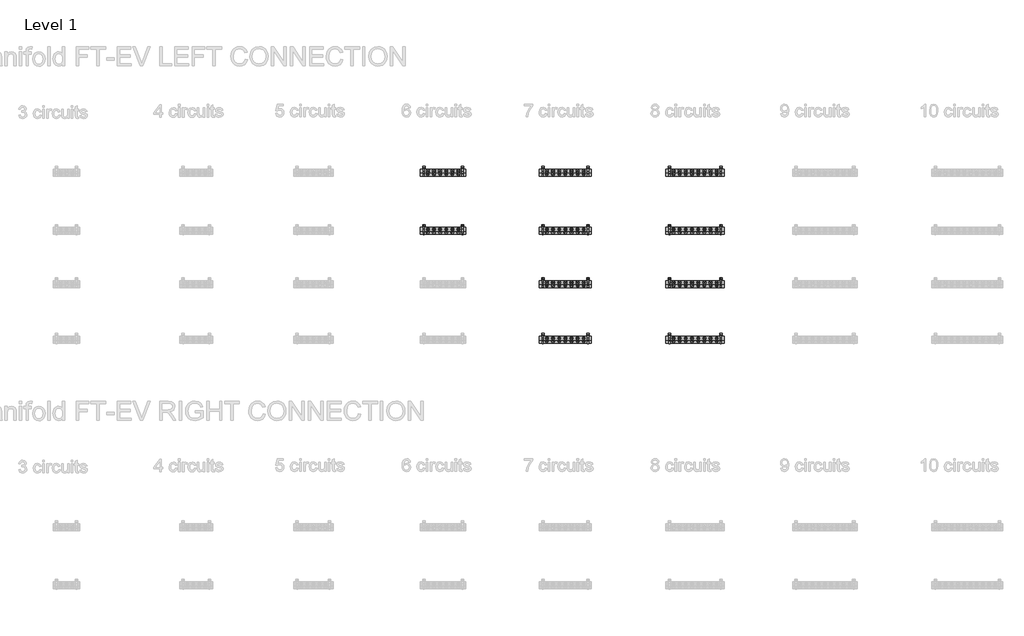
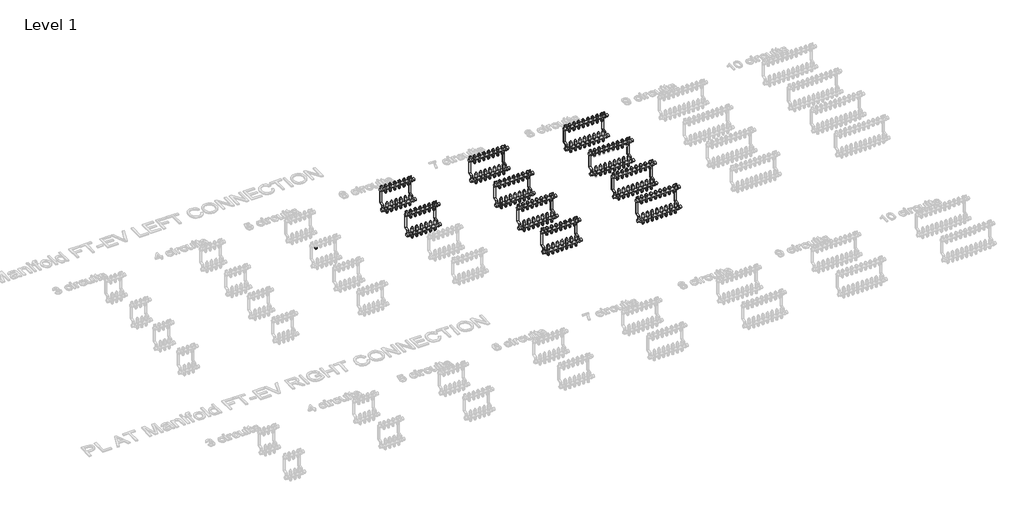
# One storey, part 9 of 23: 138 pipe fittings, 10 valves.
"""IFC4 building model written with IfcOpenShell, lengths in millimetres."""

from ifc_helpers import new_model, si_unit, origin, place, context, project, spatial, transform, mapped, element, save
from components import pipe_fitting_03c6499f, valve_0c7f9d95, valve_02e7046f, valve_ee085975, valve_4b47ae93, valve_fde5d0af, valve_4e4a3ad7, valve_daf88f27

model = new_model("IFC4")

# Units and contexts
model_context = context("Model", 3, world=origin())
ifc_project = project(units=[si_unit("LENGTHUNIT", "METRE", prefix="MILLI")], contexts=[model_context])

# Site, building, storey
site = spatial("IfcSite", under=ifc_project)
building = spatial("IfcBuilding", under=site)
storey = spatial("IfcBuildingStorey", under=building, Name="Level 1", Elevation=0.0)

# Pipe fittings
placement = place(None, origin())
pipe_fitting_shape = pipe_fitting_03c6499f(model_context)
element("IfcPipeFitting", 1, ObjectType="Euroconus screwing for multilayer pipes - Manifold FT : Euroconus screwing for multilayer pipes - Manifold FT", at=placement, inside=storey, context=model_context, shape_type="MappedRepresentation", body=[
    mapped(pipe_fitting_shape, transform((4292.9796862, 1200.3040686, 272.88733), x_axis=(0.0, 0.0, -1.0), y_axis=(0.0, 1.0000000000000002, 0.0), z_axis=(1.0000000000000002, 0.0, 0.0))),
])
element("IfcPipeFitting", 2, ObjectType="Euroconus screwing for multilayer pipes - Manifold FT : Euroconus screwing for multilayer pipes - Manifold FT", at=placement, inside=storey, context=model_context, shape_type="MappedRepresentation", body=[
    mapped(pipe_fitting_shape, transform((5486.5796862, 1635.3040686, 62.88733), x_axis=(0.0, 0.0, -1.0), y_axis=(0.0, 1.0000000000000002, 0.0), z_axis=(1.0000000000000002, 0.0, 0.0))),
])
element("IfcPipeFitting", 3, ObjectType="Euroconus screwing for multilayer pipes - Manifold FT : Euroconus screwing for multilayer pipes - Manifold FT", at=placement, inside=storey, context=model_context, shape_type="MappedRepresentation", body=[
    mapped(pipe_fitting_shape, transform((5438.1796862, 1635.3040686, 62.88733), x_axis=(0.0, 0.0, -1.0), y_axis=(0.0, 1.0000000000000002, 0.0), z_axis=(1.0000000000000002, 0.0, 0.0))),
])
element("IfcPipeFitting", 4, ObjectType="Euroconus screwing for multilayer pipes - Manifold FT : Euroconus screwing for multilayer pipes - Manifold FT", at=placement, inside=storey, context=model_context, shape_type="MappedRepresentation", body=[
    mapped(pipe_fitting_shape, transform((5389.7796862, 1635.3040686, 62.88733), x_axis=(0.0, 0.0, -1.0), y_axis=(0.0, 1.0000000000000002, 0.0), z_axis=(1.0000000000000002, 0.0, 0.0))),
])
element("IfcPipeFitting", 5, ObjectType="Euroconus screwing for multilayer pipes - Manifold FT : Euroconus screwing for multilayer pipes - Manifold FT", at=placement, inside=storey, context=model_context, shape_type="MappedRepresentation", body=[
    mapped(pipe_fitting_shape, transform((5341.3796862, 1635.3040686, 62.88733), x_axis=(0.0, 0.0, -1.0), y_axis=(0.0, 1.0000000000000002, 0.0), z_axis=(1.0000000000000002, 0.0, 0.0))),
])
element("IfcPipeFitting", 6, ObjectType="Euroconus screwing for multilayer pipes - Manifold FT : Euroconus screwing for multilayer pipes - Manifold FT", at=placement, inside=storey, context=model_context, shape_type="MappedRepresentation", body=[
    mapped(pipe_fitting_shape, transform((5534.9796862, 1635.3040686, 62.88733), x_axis=(0.0, 0.0, -1.0), y_axis=(0.0, 1.0000000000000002, 0.0), z_axis=(1.0000000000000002, 0.0, 0.0))),
])
element("IfcPipeFitting", 7, ObjectType="Euroconus screwing for multilayer pipes - Manifold FT : Euroconus screwing for multilayer pipes - Manifold FT", at=placement, inside=storey, context=model_context, shape_type="MappedRepresentation", body=[
    mapped(pipe_fitting_shape, transform((5486.5796862, 1660.3040686, 272.88733), x_axis=(0.0, 0.0, -1.0), y_axis=(0.0, 1.0000000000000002, 0.0), z_axis=(1.0000000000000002, 0.0, 0.0))),
])
element("IfcPipeFitting", 8, ObjectType="Euroconus screwing for multilayer pipes - Manifold FT : Euroconus screwing for multilayer pipes - Manifold FT", at=placement, inside=storey, context=model_context, shape_type="MappedRepresentation", body=[
    mapped(pipe_fitting_shape, transform((5438.1796862, 1660.3040686, 272.88733), x_axis=(0.0, 0.0, -1.0), y_axis=(0.0, 1.0000000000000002, 0.0), z_axis=(1.0000000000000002, 0.0, 0.0))),
])
element("IfcPipeFitting", 9, ObjectType="Euroconus screwing for multilayer pipes - Manifold FT : Euroconus screwing for multilayer pipes - Manifold FT", at=placement, inside=storey, context=model_context, shape_type="MappedRepresentation", body=[
    mapped(pipe_fitting_shape, transform((5389.7796862, 1660.3040686, 272.88733), x_axis=(0.0, 0.0, -1.0), y_axis=(0.0, 1.0000000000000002, 0.0), z_axis=(1.0000000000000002, 0.0, 0.0))),
])
element("IfcPipeFitting", 10, ObjectType="Euroconus screwing for multilayer pipes - Manifold FT : Euroconus screwing for multilayer pipes - Manifold FT", at=placement, inside=storey, context=model_context, shape_type="MappedRepresentation", body=[
    mapped(pipe_fitting_shape, transform((5341.3796862, 1660.3040686, 272.88733), x_axis=(0.0, 0.0, -1.0), y_axis=(0.0, 1.0000000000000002, 0.0), z_axis=(1.0000000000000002, 0.0, 0.0))),
])
element("IfcPipeFitting", 11, ObjectType="Euroconus screwing for multilayer pipes - Manifold FT : Euroconus screwing for multilayer pipes - Manifold FT", at=placement, inside=storey, context=model_context, shape_type="MappedRepresentation", body=[
    mapped(pipe_fitting_shape, transform((5534.9796862, 1660.3040686, 272.88733), x_axis=(0.0, 0.0, -1.0), y_axis=(0.0, 1.0000000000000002, 0.0), z_axis=(1.0000000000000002, 0.0, 0.0))),
])
element("IfcPipeFitting", 12, ObjectType="Euroconus screwing for multilayer pipes - Manifold FT : Euroconus screwing for multilayer pipes - Manifold FT", at=placement, inside=storey, context=model_context, shape_type="MappedRepresentation", body=[
    mapped(pipe_fitting_shape, transform((5292.9796862, 1635.3040686, 62.88733), x_axis=(0.0, 0.0, -1.0), y_axis=(0.0, 1.0000000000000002, 0.0), z_axis=(1.0000000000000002, 0.0, 0.0))),
])
element("IfcPipeFitting", 13, ObjectType="Euroconus screwing for multilayer pipes - Manifold FT : Euroconus screwing for multilayer pipes - Manifold FT", at=placement, inside=storey, context=model_context, shape_type="MappedRepresentation", body=[
    mapped(pipe_fitting_shape, transform((5292.9796862, 1660.3040686, 272.88733), x_axis=(0.0, 0.0, -1.0), y_axis=(0.0, 1.0000000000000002, 0.0), z_axis=(1.0000000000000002, 0.0, 0.0))),
])
element("IfcPipeFitting", 14, ObjectType="Euroconus screwing for multilayer pipes - Manifold FT : Euroconus screwing for multilayer pipes - Manifold FT", at=placement, inside=storey, context=model_context, shape_type="MappedRepresentation", body=[
    mapped(pipe_fitting_shape, transform((5486.5796862, 1175.3040686, 62.88733), x_axis=(0.0, 0.0, -1.0), y_axis=(0.0, 1.0000000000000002, 0.0), z_axis=(1.0000000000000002, 0.0, 0.0))),
])
element("IfcPipeFitting", 15, ObjectType="Euroconus screwing for multilayer pipes - Manifold FT : Euroconus screwing for multilayer pipes - Manifold FT", at=placement, inside=storey, context=model_context, shape_type="MappedRepresentation", body=[
    mapped(pipe_fitting_shape, transform((5438.1796862, 1175.3040686, 62.88733), x_axis=(0.0, 0.0, -1.0), y_axis=(0.0, 1.0000000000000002, 0.0), z_axis=(1.0000000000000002, 0.0, 0.0))),
])
element("IfcPipeFitting", 16, ObjectType="Euroconus screwing for multilayer pipes - Manifold FT : Euroconus screwing for multilayer pipes - Manifold FT", at=placement, inside=storey, context=model_context, shape_type="MappedRepresentation", body=[
    mapped(pipe_fitting_shape, transform((5389.7796862, 1175.3040686, 62.88733), x_axis=(0.0, 0.0, -1.0), y_axis=(0.0, 1.0000000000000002, 0.0), z_axis=(1.0000000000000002, 0.0, 0.0))),
])
element("IfcPipeFitting", 17, ObjectType="Euroconus screwing for multilayer pipes - Manifold FT : Euroconus screwing for multilayer pipes - Manifold FT", at=placement, inside=storey, context=model_context, shape_type="MappedRepresentation", body=[
    mapped(pipe_fitting_shape, transform((5341.3796862, 1175.3040686, 62.88733), x_axis=(0.0, 0.0, -1.0), y_axis=(0.0, 1.0000000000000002, 0.0), z_axis=(1.0000000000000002, 0.0, 0.0))),
])
element("IfcPipeFitting", 18, ObjectType="Euroconus screwing for multilayer pipes - Manifold FT : Euroconus screwing for multilayer pipes - Manifold FT", at=placement, inside=storey, context=model_context, shape_type="MappedRepresentation", body=[
    mapped(pipe_fitting_shape, transform((5534.9796862, 1175.3040686, 62.88733), x_axis=(0.0, 0.0, -1.0), y_axis=(0.0, 1.0000000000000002, 0.0), z_axis=(1.0000000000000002, 0.0, 0.0))),
])
element("IfcPipeFitting", 19, ObjectType="Euroconus screwing for multilayer pipes - Manifold FT : Euroconus screwing for multilayer pipes - Manifold FT", at=placement, inside=storey, context=model_context, shape_type="MappedRepresentation", body=[
    mapped(pipe_fitting_shape, transform((5486.5796862, 1200.3040686, 272.88733), x_axis=(0.0, 0.0, -1.0), y_axis=(0.0, 1.0000000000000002, 0.0), z_axis=(1.0000000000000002, 0.0, 0.0))),
])
element("IfcPipeFitting", 20, ObjectType="Euroconus screwing for multilayer pipes - Manifold FT : Euroconus screwing for multilayer pipes - Manifold FT", at=placement, inside=storey, context=model_context, shape_type="MappedRepresentation", body=[
    mapped(pipe_fitting_shape, transform((5438.1796862, 1200.3040686, 272.88733), x_axis=(0.0, 0.0, -1.0), y_axis=(0.0, 1.0000000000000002, 0.0), z_axis=(1.0000000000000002, 0.0, 0.0))),
])
element("IfcPipeFitting", 21, ObjectType="Euroconus screwing for multilayer pipes - Manifold FT : Euroconus screwing for multilayer pipes - Manifold FT", at=placement, inside=storey, context=model_context, shape_type="MappedRepresentation", body=[
    mapped(pipe_fitting_shape, transform((5389.7796862, 1200.3040686, 272.88733), x_axis=(0.0, 0.0, -1.0), y_axis=(0.0, 1.0000000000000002, 0.0), z_axis=(1.0000000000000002, 0.0, 0.0))),
])
element("IfcPipeFitting", 22, ObjectType="Euroconus screwing for multilayer pipes - Manifold FT : Euroconus screwing for multilayer pipes - Manifold FT", at=placement, inside=storey, context=model_context, shape_type="MappedRepresentation", body=[
    mapped(pipe_fitting_shape, transform((5341.3796862, 1200.3040686, 272.88733), x_axis=(0.0, 0.0, -1.0), y_axis=(0.0, 1.0000000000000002, 0.0), z_axis=(1.0000000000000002, 0.0, 0.0))),
])
element("IfcPipeFitting", 23, ObjectType="Euroconus screwing for multilayer pipes - Manifold FT : Euroconus screwing for multilayer pipes - Manifold FT", at=placement, inside=storey, context=model_context, shape_type="MappedRepresentation", body=[
    mapped(pipe_fitting_shape, transform((5534.9796862, 1200.3040686, 272.88733), x_axis=(0.0, 0.0, -1.0), y_axis=(0.0, 1.0000000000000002, 0.0), z_axis=(1.0000000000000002, 0.0, 0.0))),
])
element("IfcPipeFitting", 24, ObjectType="Euroconus screwing for multilayer pipes - Manifold FT : Euroconus screwing for multilayer pipes - Manifold FT", at=placement, inside=storey, context=model_context, shape_type="MappedRepresentation", body=[
    mapped(pipe_fitting_shape, transform((5292.9796862, 1175.3040686, 62.88733), x_axis=(0.0, 0.0, -1.0), y_axis=(0.0, 1.0000000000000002, 0.0), z_axis=(1.0000000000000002, 0.0, 0.0))),
])
element("IfcPipeFitting", 25, ObjectType="Euroconus screwing for multilayer pipes - Manifold FT : Euroconus screwing for multilayer pipes - Manifold FT", at=placement, inside=storey, context=model_context, shape_type="MappedRepresentation", body=[
    mapped(pipe_fitting_shape, transform((5292.9796862, 1200.3040686, 272.88733), x_axis=(0.0, 0.0, -1.0), y_axis=(0.0, 1.0000000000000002, 0.0), z_axis=(1.0000000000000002, 0.0, 0.0))),
])
element("IfcPipeFitting", 26, ObjectType="Euroconus screwing for multilayer pipes - Manifold FT : Euroconus screwing for multilayer pipes - Manifold FT", at=placement, inside=storey, context=model_context, shape_type="MappedRepresentation", body=[
    mapped(pipe_fitting_shape, transform((6476.3130195, 1635.3040686, 62.88733), x_axis=(0.0, 0.0, -1.0), y_axis=(0.0, 1.0000000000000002, 0.0), z_axis=(1.0000000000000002, 0.0, 0.0))),
])
element("IfcPipeFitting", 27, ObjectType="Euroconus screwing for multilayer pipes - Manifold FT : Euroconus screwing for multilayer pipes - Manifold FT", at=placement, inside=storey, context=model_context, shape_type="MappedRepresentation", body=[
    mapped(pipe_fitting_shape, transform((6427.6463528, 1635.3040686, 62.88733), x_axis=(0.0, 0.0, -1.0), y_axis=(0.0, 1.0000000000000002, 0.0), z_axis=(1.0000000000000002, 0.0, 0.0))),
])
element("IfcPipeFitting", 28, ObjectType="Euroconus screwing for multilayer pipes - Manifold FT : Euroconus screwing for multilayer pipes - Manifold FT", at=placement, inside=storey, context=model_context, shape_type="MappedRepresentation", body=[
    mapped(pipe_fitting_shape, transform((6378.9796862, 1635.3040686, 62.88733), x_axis=(0.0, 0.0, -1.0), y_axis=(0.0, 1.0000000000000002, 0.0), z_axis=(1.0000000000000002, 0.0, 0.0))),
])
element("IfcPipeFitting", 29, ObjectType="Euroconus screwing for multilayer pipes - Manifold FT : Euroconus screwing for multilayer pipes - Manifold FT", at=placement, inside=storey, context=model_context, shape_type="MappedRepresentation", body=[
    mapped(pipe_fitting_shape, transform((6330.3130195, 1635.3040686, 62.88733), x_axis=(0.0, 0.0, -1.0), y_axis=(0.0, 1.0000000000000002, 0.0), z_axis=(1.0000000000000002, 0.0, 0.0))),
])
element("IfcPipeFitting", 30, ObjectType="Euroconus screwing for multilayer pipes - Manifold FT : Euroconus screwing for multilayer pipes - Manifold FT", at=placement, inside=storey, context=model_context, shape_type="MappedRepresentation", body=[
    mapped(pipe_fitting_shape, transform((6281.6463528, 1635.3040686, 62.88733), x_axis=(0.0, 0.0, -1.0), y_axis=(0.0, 1.0000000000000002, 0.0), z_axis=(1.0000000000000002, 0.0, 0.0))),
])
element("IfcPipeFitting", 31, ObjectType="Euroconus screwing for multilayer pipes - Manifold FT : Euroconus screwing for multilayer pipes - Manifold FT", at=placement, inside=storey, context=model_context, shape_type="MappedRepresentation", body=[
    mapped(pipe_fitting_shape, transform((6524.9796862, 1635.3040686, 62.88733), x_axis=(0.0, 0.0, -1.0), y_axis=(0.0, 1.0000000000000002, 0.0), z_axis=(1.0000000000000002, 0.0, 0.0))),
])
element("IfcPipeFitting", 32, ObjectType="Euroconus screwing for multilayer pipes - Manifold FT : Euroconus screwing for multilayer pipes - Manifold FT", at=placement, inside=storey, context=model_context, shape_type="MappedRepresentation", body=[
    mapped(pipe_fitting_shape, transform((6476.3130195, 1660.3040686, 272.88733), x_axis=(0.0, 0.0, -1.0), y_axis=(0.0, 1.0000000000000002, 0.0), z_axis=(1.0000000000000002, 0.0, 0.0))),
])
element("IfcPipeFitting", 33, ObjectType="Euroconus screwing for multilayer pipes - Manifold FT : Euroconus screwing for multilayer pipes - Manifold FT", at=placement, inside=storey, context=model_context, shape_type="MappedRepresentation", body=[
    mapped(pipe_fitting_shape, transform((6427.6463528, 1660.3040686, 272.88733), x_axis=(0.0, 0.0, -1.0), y_axis=(0.0, 1.0000000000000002, 0.0), z_axis=(1.0000000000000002, 0.0, 0.0))),
])
element("IfcPipeFitting", 34, ObjectType="Euroconus screwing for multilayer pipes - Manifold FT : Euroconus screwing for multilayer pipes - Manifold FT", at=placement, inside=storey, context=model_context, shape_type="MappedRepresentation", body=[
    mapped(pipe_fitting_shape, transform((6378.9796862, 1660.3040686, 272.88733), x_axis=(0.0, 0.0, -1.0), y_axis=(0.0, 1.0000000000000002, 0.0), z_axis=(1.0000000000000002, 0.0, 0.0))),
])
element("IfcPipeFitting", 35, ObjectType="Euroconus screwing for multilayer pipes - Manifold FT : Euroconus screwing for multilayer pipes - Manifold FT", at=placement, inside=storey, context=model_context, shape_type="MappedRepresentation", body=[
    mapped(pipe_fitting_shape, transform((6330.3130195, 1660.3040686, 272.88733), x_axis=(0.0, 0.0, -1.0), y_axis=(0.0, 1.0000000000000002, 0.0), z_axis=(1.0000000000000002, 0.0, 0.0))),
])
element("IfcPipeFitting", 36, ObjectType="Euroconus screwing for multilayer pipes - Manifold FT : Euroconus screwing for multilayer pipes - Manifold FT", at=placement, inside=storey, context=model_context, shape_type="MappedRepresentation", body=[
    mapped(pipe_fitting_shape, transform((6281.6463528, 1660.3040686, 272.88733), x_axis=(0.0, 0.0, -1.0), y_axis=(0.0, 1.0000000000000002, 0.0), z_axis=(1.0000000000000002, 0.0, 0.0))),
])
element("IfcPipeFitting", 37, ObjectType="Euroconus screwing for multilayer pipes - Manifold FT : Euroconus screwing for multilayer pipes - Manifold FT", at=placement, inside=storey, context=model_context, shape_type="MappedRepresentation", body=[
    mapped(pipe_fitting_shape, transform((6524.9796862, 1660.3040686, 272.88733), x_axis=(0.0, 0.0, -1.0), y_axis=(0.0, 1.0000000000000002, 0.0), z_axis=(1.0000000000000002, 0.0, 0.0))),
])
element("IfcPipeFitting", 38, ObjectType="Euroconus screwing for multilayer pipes - Manifold FT : Euroconus screwing for multilayer pipes - Manifold FT", at=placement, inside=storey, context=model_context, shape_type="MappedRepresentation", body=[
    mapped(pipe_fitting_shape, transform((6232.9796862, 1635.3040686, 62.88733), x_axis=(0.0, 0.0, -1.0), y_axis=(0.0, 1.0000000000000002, 0.0), z_axis=(1.0000000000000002, 0.0, 0.0))),
])
element("IfcPipeFitting", 39, ObjectType="Euroconus screwing for multilayer pipes - Manifold FT : Euroconus screwing for multilayer pipes - Manifold FT", at=placement, inside=storey, context=model_context, shape_type="MappedRepresentation", body=[
    mapped(pipe_fitting_shape, transform((6232.9796862, 1660.3040686, 272.88733), x_axis=(0.0, 0.0, -1.0), y_axis=(0.0, 1.0000000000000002, 0.0), z_axis=(1.0000000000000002, 0.0, 0.0))),
])
element("IfcPipeFitting", 40, ObjectType="Euroconus screwing for multilayer pipes - Manifold FT : Euroconus screwing for multilayer pipes - Manifold FT", at=placement, inside=storey, context=model_context, shape_type="MappedRepresentation", body=[
    mapped(pipe_fitting_shape, transform((6476.3130195, 1175.3040686, 62.88733), x_axis=(0.0, 0.0, -1.0), y_axis=(0.0, 1.0000000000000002, 0.0), z_axis=(1.0000000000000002, 0.0, 0.0))),
])
element("IfcPipeFitting", 41, ObjectType="Euroconus screwing for multilayer pipes - Manifold FT : Euroconus screwing for multilayer pipes - Manifold FT", at=placement, inside=storey, context=model_context, shape_type="MappedRepresentation", body=[
    mapped(pipe_fitting_shape, transform((6427.6463528, 1175.3040686, 62.88733), x_axis=(0.0, 0.0, -1.0), y_axis=(0.0, 1.0000000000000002, 0.0), z_axis=(1.0000000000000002, 0.0, 0.0))),
])
element("IfcPipeFitting", 42, ObjectType="Euroconus screwing for multilayer pipes - Manifold FT : Euroconus screwing for multilayer pipes - Manifold FT", at=placement, inside=storey, context=model_context, shape_type="MappedRepresentation", body=[
    mapped(pipe_fitting_shape, transform((6378.9796862, 1175.3040686, 62.88733), x_axis=(0.0, 0.0, -1.0), y_axis=(0.0, 1.0000000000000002, 0.0), z_axis=(1.0000000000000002, 0.0, 0.0))),
])
element("IfcPipeFitting", 43, ObjectType="Euroconus screwing for multilayer pipes - Manifold FT : Euroconus screwing for multilayer pipes - Manifold FT", at=placement, inside=storey, context=model_context, shape_type="MappedRepresentation", body=[
    mapped(pipe_fitting_shape, transform((6330.3130195, 1175.3040686, 62.88733), x_axis=(0.0, 0.0, -1.0), y_axis=(0.0, 1.0000000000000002, 0.0), z_axis=(1.0000000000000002, 0.0, 0.0))),
])
element("IfcPipeFitting", 44, ObjectType="Euroconus screwing for multilayer pipes - Manifold FT : Euroconus screwing for multilayer pipes - Manifold FT", at=placement, inside=storey, context=model_context, shape_type="MappedRepresentation", body=[
    mapped(pipe_fitting_shape, transform((6281.6463528, 1175.3040686, 62.88733), x_axis=(0.0, 0.0, -1.0), y_axis=(0.0, 1.0000000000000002, 0.0), z_axis=(1.0000000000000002, 0.0, 0.0))),
])
element("IfcPipeFitting", 45, ObjectType="Euroconus screwing for multilayer pipes - Manifold FT : Euroconus screwing for multilayer pipes - Manifold FT", at=placement, inside=storey, context=model_context, shape_type="MappedRepresentation", body=[
    mapped(pipe_fitting_shape, transform((6524.9796862, 1175.3040686, 62.88733), x_axis=(0.0, 0.0, -1.0), y_axis=(0.0, 1.0000000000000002, 0.0), z_axis=(1.0000000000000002, 0.0, 0.0))),
])
element("IfcPipeFitting", 46, ObjectType="Euroconus screwing for multilayer pipes - Manifold FT : Euroconus screwing for multilayer pipes - Manifold FT", at=placement, inside=storey, context=model_context, shape_type="MappedRepresentation", body=[
    mapped(pipe_fitting_shape, transform((6476.3130195, 1200.3040686, 272.88733), x_axis=(0.0, 0.0, -1.0), y_axis=(0.0, 1.0000000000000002, 0.0), z_axis=(1.0000000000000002, 0.0, 0.0))),
])
element("IfcPipeFitting", 47, ObjectType="Euroconus screwing for multilayer pipes - Manifold FT : Euroconus screwing for multilayer pipes - Manifold FT", at=placement, inside=storey, context=model_context, shape_type="MappedRepresentation", body=[
    mapped(pipe_fitting_shape, transform((6427.6463528, 1200.3040686, 272.88733), x_axis=(0.0, 0.0, -1.0), y_axis=(0.0, 1.0000000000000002, 0.0), z_axis=(1.0000000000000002, 0.0, 0.0))),
])
element("IfcPipeFitting", 48, ObjectType="Euroconus screwing for multilayer pipes - Manifold FT : Euroconus screwing for multilayer pipes - Manifold FT", at=placement, inside=storey, context=model_context, shape_type="MappedRepresentation", body=[
    mapped(pipe_fitting_shape, transform((6378.9796862, 1200.3040686, 272.88733), x_axis=(0.0, 0.0, -1.0), y_axis=(0.0, 1.0000000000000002, 0.0), z_axis=(1.0000000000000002, 0.0, 0.0))),
])
element("IfcPipeFitting", 49, ObjectType="Euroconus screwing for multilayer pipes - Manifold FT : Euroconus screwing for multilayer pipes - Manifold FT", at=placement, inside=storey, context=model_context, shape_type="MappedRepresentation", body=[
    mapped(pipe_fitting_shape, transform((6330.3130195, 1200.3040686, 272.88733), x_axis=(0.0, 0.0, -1.0), y_axis=(0.0, 1.0000000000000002, 0.0), z_axis=(1.0000000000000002, 0.0, 0.0))),
])
element("IfcPipeFitting", 50, ObjectType="Euroconus screwing for multilayer pipes - Manifold FT : Euroconus screwing for multilayer pipes - Manifold FT", at=placement, inside=storey, context=model_context, shape_type="MappedRepresentation", body=[
    mapped(pipe_fitting_shape, transform((6281.6463528, 1200.3040686, 272.88733), x_axis=(0.0, 0.0, -1.0), y_axis=(0.0, 1.0000000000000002, 0.0), z_axis=(1.0000000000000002, 0.0, 0.0))),
])
element("IfcPipeFitting", 51, ObjectType="Euroconus screwing for multilayer pipes - Manifold FT : Euroconus screwing for multilayer pipes - Manifold FT", at=placement, inside=storey, context=model_context, shape_type="MappedRepresentation", body=[
    mapped(pipe_fitting_shape, transform((6524.9796862, 1200.3040686, 272.88733), x_axis=(0.0, 0.0, -1.0), y_axis=(0.0, 1.0000000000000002, 0.0), z_axis=(1.0000000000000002, 0.0, 0.0))),
])
element("IfcPipeFitting", 52, ObjectType="Euroconus screwing for multilayer pipes - Manifold FT : Euroconus screwing for multilayer pipes - Manifold FT", at=placement, inside=storey, context=model_context, shape_type="MappedRepresentation", body=[
    mapped(pipe_fitting_shape, transform((6232.9796862, 1175.3040686, 62.88733), x_axis=(0.0, 0.0, -1.0), y_axis=(0.0, 1.0000000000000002, 0.0), z_axis=(1.0000000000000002, 0.0, 0.0))),
])
element("IfcPipeFitting", 53, ObjectType="Euroconus screwing for multilayer pipes - Manifold FT : Euroconus screwing for multilayer pipes - Manifold FT", at=placement, inside=storey, context=model_context, shape_type="MappedRepresentation", body=[
    mapped(pipe_fitting_shape, transform((6232.9796862, 1200.3040686, 272.88733), x_axis=(0.0, 0.0, -1.0), y_axis=(0.0, 1.0000000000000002, 0.0), z_axis=(1.0000000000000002, 0.0, 0.0))),
])
element("IfcPipeFitting", 54, ObjectType="Euroconus screwing for multilayer pipes - Manifold FT : Euroconus screwing for multilayer pipes - Manifold FT", at=placement, inside=storey, context=model_context, shape_type="MappedRepresentation", body=[
    mapped(pipe_fitting_shape, transform((6476.3130195, 755.3040686, 62.88733), x_axis=(0.0, 0.0, -1.0), y_axis=(0.0, 1.0000000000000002, 0.0), z_axis=(1.0000000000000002, 0.0, 0.0))),
])
element("IfcPipeFitting", 55, ObjectType="Euroconus screwing for multilayer pipes - Manifold FT : Euroconus screwing for multilayer pipes - Manifold FT", at=placement, inside=storey, context=model_context, shape_type="MappedRepresentation", body=[
    mapped(pipe_fitting_shape, transform((6427.6463528, 755.3040686, 62.88733), x_axis=(0.0, 0.0, -1.0), y_axis=(0.0, 1.0000000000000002, 0.0), z_axis=(1.0000000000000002, 0.0, 0.0))),
])
element("IfcPipeFitting", 56, ObjectType="Euroconus screwing for multilayer pipes - Manifold FT : Euroconus screwing for multilayer pipes - Manifold FT", at=placement, inside=storey, context=model_context, shape_type="MappedRepresentation", body=[
    mapped(pipe_fitting_shape, transform((6378.9796862, 755.3040686, 62.88733), x_axis=(0.0, 0.0, -1.0), y_axis=(0.0, 1.0000000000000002, 0.0), z_axis=(1.0000000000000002, 0.0, 0.0))),
])
element("IfcPipeFitting", 57, ObjectType="Euroconus screwing for multilayer pipes - Manifold FT : Euroconus screwing for multilayer pipes - Manifold FT", at=placement, inside=storey, context=model_context, shape_type="MappedRepresentation", body=[
    mapped(pipe_fitting_shape, transform((6330.3130195, 755.3040686, 62.88733), x_axis=(0.0, 0.0, -1.0), y_axis=(0.0, 1.0000000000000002, 0.0), z_axis=(1.0000000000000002, 0.0, 0.0))),
])
element("IfcPipeFitting", 58, ObjectType="Euroconus screwing for multilayer pipes - Manifold FT : Euroconus screwing for multilayer pipes - Manifold FT", at=placement, inside=storey, context=model_context, shape_type="MappedRepresentation", body=[
    mapped(pipe_fitting_shape, transform((6281.6463528, 755.3040686, 62.88733), x_axis=(0.0, 0.0, -1.0), y_axis=(0.0, 1.0000000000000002, 0.0), z_axis=(1.0000000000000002, 0.0, 0.0))),
])
element("IfcPipeFitting", 59, ObjectType="Euroconus screwing for multilayer pipes - Manifold FT : Euroconus screwing for multilayer pipes - Manifold FT", at=placement, inside=storey, context=model_context, shape_type="MappedRepresentation", body=[
    mapped(pipe_fitting_shape, transform((6524.9796862, 755.3040686, 62.88733), x_axis=(0.0, 0.0, -1.0), y_axis=(0.0, 1.0000000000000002, 0.0), z_axis=(1.0000000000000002, 0.0, 0.0))),
])
element("IfcPipeFitting", 60, ObjectType="Euroconus screwing for multilayer pipes - Manifold FT : Euroconus screwing for multilayer pipes - Manifold FT", at=placement, inside=storey, context=model_context, shape_type="MappedRepresentation", body=[
    mapped(pipe_fitting_shape, transform((6476.3130195, 780.3040686, 272.88733), x_axis=(0.0, 0.0, -1.0), y_axis=(0.0, 1.0000000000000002, 0.0), z_axis=(1.0000000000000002, 0.0, 0.0))),
])
element("IfcPipeFitting", 61, ObjectType="Euroconus screwing for multilayer pipes - Manifold FT : Euroconus screwing for multilayer pipes - Manifold FT", at=placement, inside=storey, context=model_context, shape_type="MappedRepresentation", body=[
    mapped(pipe_fitting_shape, transform((6427.6463528, 780.3040686, 272.88733), x_axis=(0.0, 0.0, -1.0), y_axis=(0.0, 1.0000000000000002, 0.0), z_axis=(1.0000000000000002, 0.0, 0.0))),
])
element("IfcPipeFitting", 62, ObjectType="Euroconus screwing for multilayer pipes - Manifold FT : Euroconus screwing for multilayer pipes - Manifold FT", at=placement, inside=storey, context=model_context, shape_type="MappedRepresentation", body=[
    mapped(pipe_fitting_shape, transform((6378.9796862, 780.3040686, 272.88733), x_axis=(0.0, 0.0, -1.0), y_axis=(0.0, 1.0000000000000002, 0.0), z_axis=(1.0000000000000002, 0.0, 0.0))),
])
element("IfcPipeFitting", 63, ObjectType="Euroconus screwing for multilayer pipes - Manifold FT : Euroconus screwing for multilayer pipes - Manifold FT", at=placement, inside=storey, context=model_context, shape_type="MappedRepresentation", body=[
    mapped(pipe_fitting_shape, transform((6330.3130195, 780.3040686, 272.88733), x_axis=(0.0, 0.0, -1.0), y_axis=(0.0, 1.0000000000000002, 0.0), z_axis=(1.0000000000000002, 0.0, 0.0))),
])
element("IfcPipeFitting", 64, ObjectType="Euroconus screwing for multilayer pipes - Manifold FT : Euroconus screwing for multilayer pipes - Manifold FT", at=placement, inside=storey, context=model_context, shape_type="MappedRepresentation", body=[
    mapped(pipe_fitting_shape, transform((6281.6463528, 780.3040686, 272.88733), x_axis=(0.0, 0.0, -1.0), y_axis=(0.0, 1.0000000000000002, 0.0), z_axis=(1.0000000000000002, 0.0, 0.0))),
])
element("IfcPipeFitting", 65, ObjectType="Euroconus screwing for multilayer pipes - Manifold FT : Euroconus screwing for multilayer pipes - Manifold FT", at=placement, inside=storey, context=model_context, shape_type="MappedRepresentation", body=[
    mapped(pipe_fitting_shape, transform((6524.9796862, 780.3040686, 272.88733), x_axis=(0.0, 0.0, -1.0), y_axis=(0.0, 1.0000000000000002, 0.0), z_axis=(1.0000000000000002, 0.0, 0.0))),
])
element("IfcPipeFitting", 66, ObjectType="Euroconus screwing for multilayer pipes - Manifold FT : Euroconus screwing for multilayer pipes - Manifold FT", at=placement, inside=storey, context=model_context, shape_type="MappedRepresentation", body=[
    mapped(pipe_fitting_shape, transform((6232.9796862, 755.3040686, 62.88733), x_axis=(0.0, 0.0, -1.0), y_axis=(0.0, 1.0000000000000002, 0.0), z_axis=(1.0000000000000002, 0.0, 0.0))),
])
element("IfcPipeFitting", 67, ObjectType="Euroconus screwing for multilayer pipes - Manifold FT : Euroconus screwing for multilayer pipes - Manifold FT", at=placement, inside=storey, context=model_context, shape_type="MappedRepresentation", body=[
    mapped(pipe_fitting_shape, transform((6232.9796862, 780.3040686, 272.88733), x_axis=(0.0, 0.0, -1.0), y_axis=(0.0, 1.0000000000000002, 0.0), z_axis=(1.0000000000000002, 0.0, 0.0))),
])
element("IfcPipeFitting", 68, ObjectType="Euroconus screwing for multilayer pipes - Manifold FT : Euroconus screwing for multilayer pipes - Manifold FT", at=placement, inside=storey, context=model_context, shape_type="MappedRepresentation", body=[
    mapped(pipe_fitting_shape, transform((6476.3130195, 315.3040686, 62.88733), x_axis=(0.0, 0.0, -1.0), y_axis=(0.0, 1.0000000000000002, 0.0), z_axis=(1.0000000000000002, 0.0, 0.0))),
])
element("IfcPipeFitting", 69, ObjectType="Euroconus screwing for multilayer pipes - Manifold FT : Euroconus screwing for multilayer pipes - Manifold FT", at=placement, inside=storey, context=model_context, shape_type="MappedRepresentation", body=[
    mapped(pipe_fitting_shape, transform((6427.6463528, 315.3040686, 62.88733), x_axis=(0.0, 0.0, -1.0), y_axis=(0.0, 1.0000000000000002, 0.0), z_axis=(1.0000000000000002, 0.0, 0.0))),
])
element("IfcPipeFitting", 70, ObjectType="Euroconus screwing for multilayer pipes - Manifold FT : Euroconus screwing for multilayer pipes - Manifold FT", at=placement, inside=storey, context=model_context, shape_type="MappedRepresentation", body=[
    mapped(pipe_fitting_shape, transform((6378.9796862, 315.3040686, 62.88733), x_axis=(0.0, 0.0, -1.0), y_axis=(0.0, 1.0000000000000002, 0.0), z_axis=(1.0000000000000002, 0.0, 0.0))),
])
element("IfcPipeFitting", 71, ObjectType="Euroconus screwing for multilayer pipes - Manifold FT : Euroconus screwing for multilayer pipes - Manifold FT", at=placement, inside=storey, context=model_context, shape_type="MappedRepresentation", body=[
    mapped(pipe_fitting_shape, transform((6330.3130195, 315.3040686, 62.88733), x_axis=(0.0, 0.0, -1.0), y_axis=(0.0, 1.0000000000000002, 0.0), z_axis=(1.0000000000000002, 0.0, 0.0))),
])
element("IfcPipeFitting", 72, ObjectType="Euroconus screwing for multilayer pipes - Manifold FT : Euroconus screwing for multilayer pipes - Manifold FT", at=placement, inside=storey, context=model_context, shape_type="MappedRepresentation", body=[
    mapped(pipe_fitting_shape, transform((6281.6463528, 315.3040686, 62.88733), x_axis=(0.0, 0.0, -1.0), y_axis=(0.0, 1.0000000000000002, 0.0), z_axis=(1.0000000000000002, 0.0, 0.0))),
])
element("IfcPipeFitting", 73, ObjectType="Euroconus screwing for multilayer pipes - Manifold FT : Euroconus screwing for multilayer pipes - Manifold FT", at=placement, inside=storey, context=model_context, shape_type="MappedRepresentation", body=[
    mapped(pipe_fitting_shape, transform((6524.9796862, 315.3040686, 62.88733), x_axis=(0.0, 0.0, -1.0), y_axis=(0.0, 1.0000000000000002, 0.0), z_axis=(1.0000000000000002, 0.0, 0.0))),
])
element("IfcPipeFitting", 74, ObjectType="Euroconus screwing for multilayer pipes - Manifold FT : Euroconus screwing for multilayer pipes - Manifold FT", at=placement, inside=storey, context=model_context, shape_type="MappedRepresentation", body=[
    mapped(pipe_fitting_shape, transform((6476.3130195, 340.3040686, 272.88733), x_axis=(0.0, 0.0, -1.0), y_axis=(0.0, 1.0000000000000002, 0.0), z_axis=(1.0000000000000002, 0.0, 0.0))),
])
element("IfcPipeFitting", 75, ObjectType="Euroconus screwing for multilayer pipes - Manifold FT : Euroconus screwing for multilayer pipes - Manifold FT", at=placement, inside=storey, context=model_context, shape_type="MappedRepresentation", body=[
    mapped(pipe_fitting_shape, transform((6427.6463528, 340.3040686, 272.88733), x_axis=(0.0, 0.0, -1.0), y_axis=(0.0, 1.0000000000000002, 0.0), z_axis=(1.0000000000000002, 0.0, 0.0))),
])
element("IfcPipeFitting", 76, ObjectType="Euroconus screwing for multilayer pipes - Manifold FT : Euroconus screwing for multilayer pipes - Manifold FT", at=placement, inside=storey, context=model_context, shape_type="MappedRepresentation", body=[
    mapped(pipe_fitting_shape, transform((6378.9796862, 340.3040686, 272.88733), x_axis=(0.0, 0.0, -1.0), y_axis=(0.0, 1.0000000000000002, 0.0), z_axis=(1.0000000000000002, 0.0, 0.0))),
])
element("IfcPipeFitting", 77, ObjectType="Euroconus screwing for multilayer pipes - Manifold FT : Euroconus screwing for multilayer pipes - Manifold FT", at=placement, inside=storey, context=model_context, shape_type="MappedRepresentation", body=[
    mapped(pipe_fitting_shape, transform((6330.3130195, 340.3040686, 272.88733), x_axis=(0.0, 0.0, -1.0), y_axis=(0.0, 1.0000000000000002, 0.0), z_axis=(1.0000000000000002, 0.0, 0.0))),
])
element("IfcPipeFitting", 78, ObjectType="Euroconus screwing for multilayer pipes - Manifold FT : Euroconus screwing for multilayer pipes - Manifold FT", at=placement, inside=storey, context=model_context, shape_type="MappedRepresentation", body=[
    mapped(pipe_fitting_shape, transform((6281.6463528, 340.3040686, 272.88733), x_axis=(0.0, 0.0, -1.0), y_axis=(0.0, 1.0000000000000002, 0.0), z_axis=(1.0000000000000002, 0.0, 0.0))),
])
element("IfcPipeFitting", 79, ObjectType="Euroconus screwing for multilayer pipes - Manifold FT : Euroconus screwing for multilayer pipes - Manifold FT", at=placement, inside=storey, context=model_context, shape_type="MappedRepresentation", body=[
    mapped(pipe_fitting_shape, transform((6524.9796862, 340.3040686, 272.88733), x_axis=(0.0, 0.0, -1.0), y_axis=(0.0, 1.0000000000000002, 0.0), z_axis=(1.0000000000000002, 0.0, 0.0))),
])
element("IfcPipeFitting", 80, ObjectType="Euroconus screwing for multilayer pipes - Manifold FT : Euroconus screwing for multilayer pipes - Manifold FT", at=placement, inside=storey, context=model_context, shape_type="MappedRepresentation", body=[
    mapped(pipe_fitting_shape, transform((6232.9796862, 315.3040686, 62.88733), x_axis=(0.0, 0.0, -1.0), y_axis=(0.0, 1.0000000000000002, 0.0), z_axis=(1.0000000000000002, 0.0, 0.0))),
])
element("IfcPipeFitting", 81, ObjectType="Euroconus screwing for multilayer pipes - Manifold FT : Euroconus screwing for multilayer pipes - Manifold FT", at=placement, inside=storey, context=model_context, shape_type="MappedRepresentation", body=[
    mapped(pipe_fitting_shape, transform((6232.9796862, 340.3040686, 272.88733), x_axis=(0.0, 0.0, -1.0), y_axis=(0.0, 1.0000000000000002, 0.0), z_axis=(1.0000000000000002, 0.0, 0.0))),
])
element("IfcPipeFitting", 82, ObjectType="Euroconus screwing for multilayer pipes - Manifold FT : Euroconus screwing for multilayer pipes - Manifold FT", at=placement, inside=storey, context=model_context, shape_type="MappedRepresentation", body=[
    mapped(pipe_fitting_shape, transform((7526.1225433, 1635.3040686, 62.88733), x_axis=(0.0, 0.0, -1.0), y_axis=(0.0, 1.0000000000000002, 0.0), z_axis=(1.0000000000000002, 0.0, 0.0))),
])
element("IfcPipeFitting", 83, ObjectType="Euroconus screwing for multilayer pipes - Manifold FT : Euroconus screwing for multilayer pipes - Manifold FT", at=placement, inside=storey, context=model_context, shape_type="MappedRepresentation", body=[
    mapped(pipe_fitting_shape, transform((7477.2654004, 1635.3040686, 62.88733), x_axis=(0.0, 0.0, -1.0), y_axis=(0.0, 1.0000000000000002, 0.0), z_axis=(1.0000000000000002, 0.0, 0.0))),
])
element("IfcPipeFitting", 84, ObjectType="Euroconus screwing for multilayer pipes - Manifold FT : Euroconus screwing for multilayer pipes - Manifold FT", at=placement, inside=storey, context=model_context, shape_type="MappedRepresentation", body=[
    mapped(pipe_fitting_shape, transform((7428.4082576, 1635.3040686, 62.88733), x_axis=(0.0, 0.0, -1.0), y_axis=(0.0, 1.0000000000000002, 0.0), z_axis=(1.0000000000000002, 0.0, 0.0))),
])
element("IfcPipeFitting", 85, ObjectType="Euroconus screwing for multilayer pipes - Manifold FT : Euroconus screwing for multilayer pipes - Manifold FT", at=placement, inside=storey, context=model_context, shape_type="MappedRepresentation", body=[
    mapped(pipe_fitting_shape, transform((7379.5511147, 1635.3040686, 62.88733), x_axis=(0.0, 0.0, -1.0), y_axis=(0.0, 1.0000000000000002, 0.0), z_axis=(1.0000000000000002, 0.0, 0.0))),
])
element("IfcPipeFitting", 86, ObjectType="Euroconus screwing for multilayer pipes - Manifold FT : Euroconus screwing for multilayer pipes - Manifold FT", at=placement, inside=storey, context=model_context, shape_type="MappedRepresentation", body=[
    mapped(pipe_fitting_shape, transform((7330.6939719, 1635.3040686, 62.88733), x_axis=(0.0, 0.0, -1.0), y_axis=(0.0, 1.0000000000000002, 0.0), z_axis=(1.0000000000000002, 0.0, 0.0))),
])
element("IfcPipeFitting", 87, ObjectType="Euroconus screwing for multilayer pipes - Manifold FT : Euroconus screwing for multilayer pipes - Manifold FT", at=placement, inside=storey, context=model_context, shape_type="MappedRepresentation", body=[
    mapped(pipe_fitting_shape, transform((7281.836829, 1635.3040686, 62.88733), x_axis=(0.0, 0.0, -1.0), y_axis=(0.0, 1.0000000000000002, 0.0), z_axis=(1.0000000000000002, 0.0, 0.0))),
])
element("IfcPipeFitting", 88, ObjectType="Euroconus screwing for multilayer pipes - Manifold FT : Euroconus screwing for multilayer pipes - Manifold FT", at=placement, inside=storey, context=model_context, shape_type="MappedRepresentation", body=[
    mapped(pipe_fitting_shape, transform((7574.9796862, 1635.3040686, 62.88733), x_axis=(0.0, 0.0, -1.0), y_axis=(0.0, 1.0000000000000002, 0.0), z_axis=(1.0000000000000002, 0.0, 0.0))),
])
element("IfcPipeFitting", 89, ObjectType="Euroconus screwing for multilayer pipes - Manifold FT : Euroconus screwing for multilayer pipes - Manifold FT", at=placement, inside=storey, context=model_context, shape_type="MappedRepresentation", body=[
    mapped(pipe_fitting_shape, transform((7526.1225433, 1660.3040686, 272.88733), x_axis=(0.0, 0.0, -1.0), y_axis=(0.0, 1.0000000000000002, 0.0), z_axis=(1.0000000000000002, 0.0, 0.0))),
])
element("IfcPipeFitting", 90, ObjectType="Euroconus screwing for multilayer pipes - Manifold FT : Euroconus screwing for multilayer pipes - Manifold FT", at=placement, inside=storey, context=model_context, shape_type="MappedRepresentation", body=[
    mapped(pipe_fitting_shape, transform((7477.2654004, 1660.3040686, 272.88733), x_axis=(0.0, 0.0, -1.0), y_axis=(0.0, 1.0000000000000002, 0.0), z_axis=(1.0000000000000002, 0.0, 0.0))),
])
element("IfcPipeFitting", 91, ObjectType="Euroconus screwing for multilayer pipes - Manifold FT : Euroconus screwing for multilayer pipes - Manifold FT", at=placement, inside=storey, context=model_context, shape_type="MappedRepresentation", body=[
    mapped(pipe_fitting_shape, transform((7428.4082576, 1660.3040686, 272.88733), x_axis=(0.0, 0.0, -1.0), y_axis=(0.0, 1.0000000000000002, 0.0), z_axis=(1.0000000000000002, 0.0, 0.0))),
])
element("IfcPipeFitting", 92, ObjectType="Euroconus screwing for multilayer pipes - Manifold FT : Euroconus screwing for multilayer pipes - Manifold FT", at=placement, inside=storey, context=model_context, shape_type="MappedRepresentation", body=[
    mapped(pipe_fitting_shape, transform((7379.5511147, 1660.3040686, 272.88733), x_axis=(0.0, 0.0, -1.0), y_axis=(0.0, 1.0000000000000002, 0.0), z_axis=(1.0000000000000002, 0.0, 0.0))),
])
element("IfcPipeFitting", 93, ObjectType="Euroconus screwing for multilayer pipes - Manifold FT : Euroconus screwing for multilayer pipes - Manifold FT", at=placement, inside=storey, context=model_context, shape_type="MappedRepresentation", body=[
    mapped(pipe_fitting_shape, transform((7330.6939719, 1660.3040686, 272.88733), x_axis=(0.0, 0.0, -1.0), y_axis=(0.0, 1.0000000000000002, 0.0), z_axis=(1.0000000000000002, 0.0, 0.0))),
])
element("IfcPipeFitting", 94, ObjectType="Euroconus screwing for multilayer pipes - Manifold FT : Euroconus screwing for multilayer pipes - Manifold FT", at=placement, inside=storey, context=model_context, shape_type="MappedRepresentation", body=[
    mapped(pipe_fitting_shape, transform((7281.836829, 1660.3040686, 272.88733), x_axis=(0.0, 0.0, -1.0), y_axis=(0.0, 1.0000000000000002, 0.0), z_axis=(1.0000000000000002, 0.0, 0.0))),
])
element("IfcPipeFitting", 95, ObjectType="Euroconus screwing for multilayer pipes - Manifold FT : Euroconus screwing for multilayer pipes - Manifold FT", at=placement, inside=storey, context=model_context, shape_type="MappedRepresentation", body=[
    mapped(pipe_fitting_shape, transform((7574.9796862, 1660.3040686, 272.88733), x_axis=(0.0, 0.0, -1.0), y_axis=(0.0, 1.0000000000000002, 0.0), z_axis=(1.0000000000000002, 0.0, 0.0))),
])
element("IfcPipeFitting", 96, ObjectType="Euroconus screwing for multilayer pipes - Manifold FT : Euroconus screwing for multilayer pipes - Manifold FT", at=placement, inside=storey, context=model_context, shape_type="MappedRepresentation", body=[
    mapped(pipe_fitting_shape, transform((7232.9796862, 1635.3040686, 62.88733), x_axis=(0.0, 0.0, -1.0), y_axis=(0.0, 1.0000000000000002, 0.0), z_axis=(1.0000000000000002, 0.0, 0.0))),
])
element("IfcPipeFitting", 97, ObjectType="Euroconus screwing for multilayer pipes - Manifold FT : Euroconus screwing for multilayer pipes - Manifold FT", at=placement, inside=storey, context=model_context, shape_type="MappedRepresentation", body=[
    mapped(pipe_fitting_shape, transform((7232.9796862, 1660.3040686, 272.88733), x_axis=(0.0, 0.0, -1.0), y_axis=(0.0, 1.0000000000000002, 0.0), z_axis=(1.0000000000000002, 0.0, 0.0))),
])
element("IfcPipeFitting", 98, ObjectType="Euroconus screwing for multilayer pipes - Manifold FT : Euroconus screwing for multilayer pipes - Manifold FT", at=placement, inside=storey, context=model_context, shape_type="MappedRepresentation", body=[
    mapped(pipe_fitting_shape, transform((7526.1225433, 1175.3040686, 62.88733), x_axis=(0.0, 0.0, -1.0), y_axis=(0.0, 1.0000000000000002, 0.0), z_axis=(1.0000000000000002, 0.0, 0.0))),
])
element("IfcPipeFitting", 99, ObjectType="Euroconus screwing for multilayer pipes - Manifold FT : Euroconus screwing for multilayer pipes - Manifold FT", at=placement, inside=storey, context=model_context, shape_type="MappedRepresentation", body=[
    mapped(pipe_fitting_shape, transform((7477.2654004, 1175.3040686, 62.88733), x_axis=(0.0, 0.0, -1.0), y_axis=(0.0, 1.0000000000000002, 0.0), z_axis=(1.0000000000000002, 0.0, 0.0))),
])
element("IfcPipeFitting", 100, ObjectType="Euroconus screwing for multilayer pipes - Manifold FT : Euroconus screwing for multilayer pipes - Manifold FT", at=placement, inside=storey, context=model_context, shape_type="MappedRepresentation", body=[
    mapped(pipe_fitting_shape, transform((7428.4082576, 1175.3040686, 62.88733), x_axis=(0.0, 0.0, -1.0), y_axis=(0.0, 1.0000000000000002, 0.0), z_axis=(1.0000000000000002, 0.0, 0.0))),
])
element("IfcPipeFitting", 101, ObjectType="Euroconus screwing for multilayer pipes - Manifold FT : Euroconus screwing for multilayer pipes - Manifold FT", at=placement, inside=storey, context=model_context, shape_type="MappedRepresentation", body=[
    mapped(pipe_fitting_shape, transform((7379.5511147, 1175.3040686, 62.88733), x_axis=(0.0, 0.0, -1.0), y_axis=(0.0, 1.0000000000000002, 0.0), z_axis=(1.0000000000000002, 0.0, 0.0))),
])
element("IfcPipeFitting", 102, ObjectType="Euroconus screwing for multilayer pipes - Manifold FT : Euroconus screwing for multilayer pipes - Manifold FT", at=placement, inside=storey, context=model_context, shape_type="MappedRepresentation", body=[
    mapped(pipe_fitting_shape, transform((7330.6939719, 1175.3040686, 62.88733), x_axis=(0.0, 0.0, -1.0), y_axis=(0.0, 1.0000000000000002, 0.0), z_axis=(1.0000000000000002, 0.0, 0.0))),
])
element("IfcPipeFitting", 103, ObjectType="Euroconus screwing for multilayer pipes - Manifold FT : Euroconus screwing for multilayer pipes - Manifold FT", at=placement, inside=storey, context=model_context, shape_type="MappedRepresentation", body=[
    mapped(pipe_fitting_shape, transform((7281.836829, 1175.3040686, 62.88733), x_axis=(0.0, 0.0, -1.0), y_axis=(0.0, 1.0000000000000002, 0.0), z_axis=(1.0000000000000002, 0.0, 0.0))),
])
element("IfcPipeFitting", 104, ObjectType="Euroconus screwing for multilayer pipes - Manifold FT : Euroconus screwing for multilayer pipes - Manifold FT", at=placement, inside=storey, context=model_context, shape_type="MappedRepresentation", body=[
    mapped(pipe_fitting_shape, transform((7574.9796862, 1175.3040686, 62.88733), x_axis=(0.0, 0.0, -1.0), y_axis=(0.0, 1.0000000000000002, 0.0), z_axis=(1.0000000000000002, 0.0, 0.0))),
])
element("IfcPipeFitting", 105, ObjectType="Euroconus screwing for multilayer pipes - Manifold FT : Euroconus screwing for multilayer pipes - Manifold FT", at=placement, inside=storey, context=model_context, shape_type="MappedRepresentation", body=[
    mapped(pipe_fitting_shape, transform((7526.1225433, 1200.3040686, 272.88733), x_axis=(0.0, 0.0, -1.0), y_axis=(0.0, 1.0000000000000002, 0.0), z_axis=(1.0000000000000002, 0.0, 0.0))),
])
element("IfcPipeFitting", 106, ObjectType="Euroconus screwing for multilayer pipes - Manifold FT : Euroconus screwing for multilayer pipes - Manifold FT", at=placement, inside=storey, context=model_context, shape_type="MappedRepresentation", body=[
    mapped(pipe_fitting_shape, transform((7477.2654004, 1200.3040686, 272.88733), x_axis=(0.0, 0.0, -1.0), y_axis=(0.0, 1.0000000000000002, 0.0), z_axis=(1.0000000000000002, 0.0, 0.0))),
])
element("IfcPipeFitting", 107, ObjectType="Euroconus screwing for multilayer pipes - Manifold FT : Euroconus screwing for multilayer pipes - Manifold FT", at=placement, inside=storey, context=model_context, shape_type="MappedRepresentation", body=[
    mapped(pipe_fitting_shape, transform((7526.1225433, 755.3040686, 62.88733), x_axis=(0.0, 0.0, -1.0), y_axis=(0.0, 1.0000000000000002, 0.0), z_axis=(1.0000000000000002, 0.0, 0.0))),
])
element("IfcPipeFitting", 108, ObjectType="Euroconus screwing for multilayer pipes - Manifold FT : Euroconus screwing for multilayer pipes - Manifold FT", at=placement, inside=storey, context=model_context, shape_type="MappedRepresentation", body=[
    mapped(pipe_fitting_shape, transform((7477.2654004, 755.3040686, 62.88733), x_axis=(0.0, 0.0, -1.0), y_axis=(0.0, 1.0000000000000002, 0.0), z_axis=(1.0000000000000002, 0.0, 0.0))),
])
element("IfcPipeFitting", 109, ObjectType="Euroconus screwing for multilayer pipes - Manifold FT : Euroconus screwing for multilayer pipes - Manifold FT", at=placement, inside=storey, context=model_context, shape_type="MappedRepresentation", body=[
    mapped(pipe_fitting_shape, transform((7428.4082576, 755.3040686, 62.88733), x_axis=(0.0, 0.0, -1.0), y_axis=(0.0, 1.0000000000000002, 0.0), z_axis=(1.0000000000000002, 0.0, 0.0))),
])
element("IfcPipeFitting", 110, ObjectType="Euroconus screwing for multilayer pipes - Manifold FT : Euroconus screwing for multilayer pipes - Manifold FT", at=placement, inside=storey, context=model_context, shape_type="MappedRepresentation", body=[
    mapped(pipe_fitting_shape, transform((7379.5511147, 755.3040686, 62.88733), x_axis=(0.0, 0.0, -1.0), y_axis=(0.0, 1.0000000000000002, 0.0), z_axis=(1.0000000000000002, 0.0, 0.0))),
])
element("IfcPipeFitting", 111, ObjectType="Euroconus screwing for multilayer pipes - Manifold FT : Euroconus screwing for multilayer pipes - Manifold FT", at=placement, inside=storey, context=model_context, shape_type="MappedRepresentation", body=[
    mapped(pipe_fitting_shape, transform((7330.6939719, 755.3040686, 62.88733), x_axis=(0.0, 0.0, -1.0), y_axis=(0.0, 1.0000000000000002, 0.0), z_axis=(1.0000000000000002, 0.0, 0.0))),
])
element("IfcPipeFitting", 112, ObjectType="Euroconus screwing for multilayer pipes - Manifold FT : Euroconus screwing for multilayer pipes - Manifold FT", at=placement, inside=storey, context=model_context, shape_type="MappedRepresentation", body=[
    mapped(pipe_fitting_shape, transform((7281.836829, 755.3040686, 62.88733), x_axis=(0.0, 0.0, -1.0), y_axis=(0.0, 1.0000000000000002, 0.0), z_axis=(1.0000000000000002, 0.0, 0.0))),
])
element("IfcPipeFitting", 113, ObjectType="Euroconus screwing for multilayer pipes - Manifold FT : Euroconus screwing for multilayer pipes - Manifold FT", at=placement, inside=storey, context=model_context, shape_type="MappedRepresentation", body=[
    mapped(pipe_fitting_shape, transform((7574.9796862, 755.3040686, 62.88733), x_axis=(0.0, 0.0, -1.0), y_axis=(0.0, 1.0000000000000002, 0.0), z_axis=(1.0000000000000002, 0.0, 0.0))),
])
element("IfcPipeFitting", 114, ObjectType="Euroconus screwing for multilayer pipes - Manifold FT : Euroconus screwing for multilayer pipes - Manifold FT", at=placement, inside=storey, context=model_context, shape_type="MappedRepresentation", body=[
    mapped(pipe_fitting_shape, transform((7526.1225433, 780.3040686, 272.88733), x_axis=(0.0, 0.0, -1.0), y_axis=(0.0, 1.0000000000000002, 0.0), z_axis=(1.0000000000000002, 0.0, 0.0))),
])
element("IfcPipeFitting", 115, ObjectType="Euroconus screwing for multilayer pipes - Manifold FT : Euroconus screwing for multilayer pipes - Manifold FT", at=placement, inside=storey, context=model_context, shape_type="MappedRepresentation", body=[
    mapped(pipe_fitting_shape, transform((7477.2654004, 780.3040686, 272.88733), x_axis=(0.0, 0.0, -1.0), y_axis=(0.0, 1.0000000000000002, 0.0), z_axis=(1.0000000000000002, 0.0, 0.0))),
])
element("IfcPipeFitting", 116, ObjectType="Euroconus screwing for multilayer pipes - Manifold FT : Euroconus screwing for multilayer pipes - Manifold FT", at=placement, inside=storey, context=model_context, shape_type="MappedRepresentation", body=[
    mapped(pipe_fitting_shape, transform((7428.4082576, 780.3040686, 272.88733), x_axis=(0.0, 0.0, -1.0), y_axis=(0.0, 1.0000000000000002, 0.0), z_axis=(1.0000000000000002, 0.0, 0.0))),
])
element("IfcPipeFitting", 117, ObjectType="Euroconus screwing for multilayer pipes - Manifold FT : Euroconus screwing for multilayer pipes - Manifold FT", at=placement, inside=storey, context=model_context, shape_type="MappedRepresentation", body=[
    mapped(pipe_fitting_shape, transform((7379.5511147, 780.3040686, 272.88733), x_axis=(0.0, 0.0, -1.0), y_axis=(0.0, 1.0000000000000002, 0.0), z_axis=(1.0000000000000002, 0.0, 0.0))),
])
element("IfcPipeFitting", 118, ObjectType="Euroconus screwing for multilayer pipes - Manifold FT : Euroconus screwing for multilayer pipes - Manifold FT", at=placement, inside=storey, context=model_context, shape_type="MappedRepresentation", body=[
    mapped(pipe_fitting_shape, transform((7330.6939719, 780.3040686, 272.88733), x_axis=(0.0, 0.0, -1.0), y_axis=(0.0, 1.0000000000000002, 0.0), z_axis=(1.0000000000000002, 0.0, 0.0))),
])
element("IfcPipeFitting", 119, ObjectType="Euroconus screwing for multilayer pipes - Manifold FT : Euroconus screwing for multilayer pipes - Manifold FT", at=placement, inside=storey, context=model_context, shape_type="MappedRepresentation", body=[
    mapped(pipe_fitting_shape, transform((7281.836829, 780.3040686, 272.88733), x_axis=(0.0, 0.0, -1.0), y_axis=(0.0, 1.0000000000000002, 0.0), z_axis=(1.0000000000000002, 0.0, 0.0))),
])
element("IfcPipeFitting", 120, ObjectType="Euroconus screwing for multilayer pipes - Manifold FT : Euroconus screwing for multilayer pipes - Manifold FT", at=placement, inside=storey, context=model_context, shape_type="MappedRepresentation", body=[
    mapped(pipe_fitting_shape, transform((7574.9796862, 780.3040686, 272.88733), x_axis=(0.0, 0.0, -1.0), y_axis=(0.0, 1.0000000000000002, 0.0), z_axis=(1.0000000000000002, 0.0, 0.0))),
])
element("IfcPipeFitting", 121, ObjectType="Euroconus screwing for multilayer pipes - Manifold FT : Euroconus screwing for multilayer pipes - Manifold FT", at=placement, inside=storey, context=model_context, shape_type="MappedRepresentation", body=[
    mapped(pipe_fitting_shape, transform((7232.9796862, 755.3040686, 62.88733), x_axis=(0.0, 0.0, -1.0), y_axis=(0.0, 1.0000000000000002, 0.0), z_axis=(1.0000000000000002, 0.0, 0.0))),
])
element("IfcPipeFitting", 122, ObjectType="Euroconus screwing for multilayer pipes - Manifold FT : Euroconus screwing for multilayer pipes - Manifold FT", at=placement, inside=storey, context=model_context, shape_type="MappedRepresentation", body=[
    mapped(pipe_fitting_shape, transform((7232.9796862, 780.3040686, 272.88733), x_axis=(0.0, 0.0, -1.0), y_axis=(0.0, 1.0000000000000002, 0.0), z_axis=(1.0000000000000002, 0.0, 0.0))),
])
element("IfcPipeFitting", 123, ObjectType="Euroconus screwing for multilayer pipes - Manifold FT : Euroconus screwing for multilayer pipes - Manifold FT", at=placement, inside=storey, context=model_context, shape_type="MappedRepresentation", body=[
    mapped(pipe_fitting_shape, transform((7526.1225433, 315.3040686, 62.88733), x_axis=(0.0, 0.0, -1.0), y_axis=(0.0, 1.0000000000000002, 0.0), z_axis=(1.0000000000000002, 0.0, 0.0))),
])
element("IfcPipeFitting", 124, ObjectType="Euroconus screwing for multilayer pipes - Manifold FT : Euroconus screwing for multilayer pipes - Manifold FT", at=placement, inside=storey, context=model_context, shape_type="MappedRepresentation", body=[
    mapped(pipe_fitting_shape, transform((7477.2654004, 315.3040686, 62.88733), x_axis=(0.0, 0.0, -1.0), y_axis=(0.0, 1.0000000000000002, 0.0), z_axis=(1.0000000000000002, 0.0, 0.0))),
])
element("IfcPipeFitting", 125, ObjectType="Euroconus screwing for multilayer pipes - Manifold FT : Euroconus screwing for multilayer pipes - Manifold FT", at=placement, inside=storey, context=model_context, shape_type="MappedRepresentation", body=[
    mapped(pipe_fitting_shape, transform((7428.4082576, 315.3040686, 62.88733), x_axis=(0.0, 0.0, -1.0), y_axis=(0.0, 1.0000000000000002, 0.0), z_axis=(1.0000000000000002, 0.0, 0.0))),
])
element("IfcPipeFitting", 126, ObjectType="Euroconus screwing for multilayer pipes - Manifold FT : Euroconus screwing for multilayer pipes - Manifold FT", at=placement, inside=storey, context=model_context, shape_type="MappedRepresentation", body=[
    mapped(pipe_fitting_shape, transform((7379.5511147, 315.3040686, 62.88733), x_axis=(0.0, 0.0, -1.0), y_axis=(0.0, 1.0000000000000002, 0.0), z_axis=(1.0000000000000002, 0.0, 0.0))),
])
element("IfcPipeFitting", 127, ObjectType="Euroconus screwing for multilayer pipes - Manifold FT : Euroconus screwing for multilayer pipes - Manifold FT", at=placement, inside=storey, context=model_context, shape_type="MappedRepresentation", body=[
    mapped(pipe_fitting_shape, transform((7330.6939719, 315.3040686, 62.88733), x_axis=(0.0, 0.0, -1.0), y_axis=(0.0, 1.0000000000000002, 0.0), z_axis=(1.0000000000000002, 0.0, 0.0))),
])
element("IfcPipeFitting", 128, ObjectType="Euroconus screwing for multilayer pipes - Manifold FT : Euroconus screwing for multilayer pipes - Manifold FT", at=placement, inside=storey, context=model_context, shape_type="MappedRepresentation", body=[
    mapped(pipe_fitting_shape, transform((7281.836829, 315.3040686, 62.88733), x_axis=(0.0, 0.0, -1.0), y_axis=(0.0, 1.0000000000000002, 0.0), z_axis=(1.0000000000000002, 0.0, 0.0))),
])
element("IfcPipeFitting", 129, ObjectType="Euroconus screwing for multilayer pipes - Manifold FT : Euroconus screwing for multilayer pipes - Manifold FT", at=placement, inside=storey, context=model_context, shape_type="MappedRepresentation", body=[
    mapped(pipe_fitting_shape, transform((7574.9796862, 315.3040686, 62.88733), x_axis=(0.0, 0.0, -1.0), y_axis=(0.0, 1.0000000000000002, 0.0), z_axis=(1.0000000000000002, 0.0, 0.0))),
])
element("IfcPipeFitting", 130, ObjectType="Euroconus screwing for multilayer pipes - Manifold FT : Euroconus screwing for multilayer pipes - Manifold FT", at=placement, inside=storey, context=model_context, shape_type="MappedRepresentation", body=[
    mapped(pipe_fitting_shape, transform((7526.1225433, 340.3040686, 272.88733), x_axis=(0.0, 0.0, -1.0), y_axis=(0.0, 1.0000000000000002, 0.0), z_axis=(1.0000000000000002, 0.0, 0.0))),
])
element("IfcPipeFitting", 131, ObjectType="Euroconus screwing for multilayer pipes - Manifold FT : Euroconus screwing for multilayer pipes - Manifold FT", at=placement, inside=storey, context=model_context, shape_type="MappedRepresentation", body=[
    mapped(pipe_fitting_shape, transform((7477.2654004, 340.3040686, 272.88733), x_axis=(0.0, 0.0, -1.0), y_axis=(0.0, 1.0000000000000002, 0.0), z_axis=(1.0000000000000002, 0.0, 0.0))),
])
element("IfcPipeFitting", 132, ObjectType="Euroconus screwing for multilayer pipes - Manifold FT : Euroconus screwing for multilayer pipes - Manifold FT", at=placement, inside=storey, context=model_context, shape_type="MappedRepresentation", body=[
    mapped(pipe_fitting_shape, transform((7428.4082576, 340.3040686, 272.88733), x_axis=(0.0, 0.0, -1.0), y_axis=(0.0, 1.0000000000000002, 0.0), z_axis=(1.0000000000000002, 0.0, 0.0))),
])
element("IfcPipeFitting", 133, ObjectType="Euroconus screwing for multilayer pipes - Manifold FT : Euroconus screwing for multilayer pipes - Manifold FT", at=placement, inside=storey, context=model_context, shape_type="MappedRepresentation", body=[
    mapped(pipe_fitting_shape, transform((7379.5511147, 340.3040686, 272.88733), x_axis=(0.0, 0.0, -1.0), y_axis=(0.0, 1.0000000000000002, 0.0), z_axis=(1.0000000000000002, 0.0, 0.0))),
])
element("IfcPipeFitting", 134, ObjectType="Euroconus screwing for multilayer pipes - Manifold FT : Euroconus screwing for multilayer pipes - Manifold FT", at=placement, inside=storey, context=model_context, shape_type="MappedRepresentation", body=[
    mapped(pipe_fitting_shape, transform((7330.6939719, 340.3040686, 272.88733), x_axis=(0.0, 0.0, -1.0), y_axis=(0.0, 1.0000000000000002, 0.0), z_axis=(1.0000000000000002, 0.0, 0.0))),
])
element("IfcPipeFitting", 135, ObjectType="Euroconus screwing for multilayer pipes - Manifold FT : Euroconus screwing for multilayer pipes - Manifold FT", at=placement, inside=storey, context=model_context, shape_type="MappedRepresentation", body=[
    mapped(pipe_fitting_shape, transform((7281.836829, 340.3040686, 272.88733), x_axis=(0.0, 0.0, -1.0), y_axis=(0.0, 1.0000000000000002, 0.0), z_axis=(1.0000000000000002, 0.0, 0.0))),
])
element("IfcPipeFitting", 136, ObjectType="Euroconus screwing for multilayer pipes - Manifold FT : Euroconus screwing for multilayer pipes - Manifold FT", at=placement, inside=storey, context=model_context, shape_type="MappedRepresentation", body=[
    mapped(pipe_fitting_shape, transform((7574.9796862, 340.3040686, 272.88733), x_axis=(0.0, 0.0, -1.0), y_axis=(0.0, 1.0000000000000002, 0.0), z_axis=(1.0000000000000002, 0.0, 0.0))),
])
element("IfcPipeFitting", 137, ObjectType="Euroconus screwing for multilayer pipes - Manifold FT : Euroconus screwing for multilayer pipes - Manifold FT", at=placement, inside=storey, context=model_context, shape_type="MappedRepresentation", body=[
    mapped(pipe_fitting_shape, transform((7232.9796862, 315.3040686, 62.88733), x_axis=(0.0, 0.0, -1.0), y_axis=(0.0, 1.0000000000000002, 0.0), z_axis=(1.0000000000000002, 0.0, 0.0))),
])
element("IfcPipeFitting", 138, ObjectType="Euroconus screwing for multilayer pipes - Manifold FT : Euroconus screwing for multilayer pipes - Manifold FT", at=placement, inside=storey, context=model_context, shape_type="MappedRepresentation", body=[
    mapped(pipe_fitting_shape, transform((7232.9796862, 340.3040686, 272.88733), x_axis=(0.0, 0.0, -1.0), y_axis=(0.0, 1.0000000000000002, 0.0), z_axis=(1.0000000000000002, 0.0, 0.0))),
])

# Valves
valve_shape = valve_0c7f9d95(model_context)
valve_2_shape = valve_02e7046f(model_context)
element("IfcValve", 139, ObjectType="PL AT_Manifold_FT-EV : 06 circuits", at=placement, inside=storey, context=model_context, shape_type="MappedRepresentation", body=[
    mapped(valve_shape, transform((5250.9796862, 1635.3040686, 100.0), x_axis=(1.0, 0.0, 0.0), y_axis=(0.0, 1.0, 0.0), z_axis=(0.0, 0.0, 1.0))),
    mapped(valve_2_shape, transform((5250.9796862, 1635.3040686, 100.0), x_axis=(1.0, 0.0, 0.0), y_axis=(0.0, 1.0, 0.0), z_axis=(0.0, 0.0, 1.0))),
])
element("IfcValve", 140, ObjectType="PL AT_Manifold_FT-EV : 06 circuits", at=placement, inside=storey, context=model_context, shape_type="MappedRepresentation", body=[
    mapped(valve_shape, transform((5250.9796862, 1175.3040686, 100.0), x_axis=(1.0, 0.0, 0.0), y_axis=(0.0, 1.0, 0.0), z_axis=(0.0, 0.0, 1.0))),
    mapped(valve_2_shape, transform((5250.9796862, 1175.3040686, 100.0), x_axis=(1.0, 0.0, 0.0), y_axis=(0.0, 1.0, 0.0), z_axis=(0.0, 0.0, 1.0))),
])
valve_3_shape = valve_ee085975(model_context)
valve_4_shape = valve_4b47ae93(model_context)
element("IfcValve", 141, ObjectType="PL AT_Manifold_FT-EV : 07 circuits", at=placement, inside=storey, context=model_context, shape_type="MappedRepresentation", body=[
    mapped(valve_3_shape, transform((6190.9796862, 1635.3040686, 100.0), x_axis=(1.0, 0.0, 0.0), y_axis=(0.0, 1.0, 0.0), z_axis=(0.0, 0.0, 1.0))),
    mapped(valve_4_shape, transform((6190.9796862, 1635.3040686, 100.0), x_axis=(1.0, 0.0, 0.0), y_axis=(0.0, 1.0, 0.0), z_axis=(0.0, 0.0, 1.0))),
])
element("IfcValve", 142, ObjectType="PL AT_Manifold_FT-EV : 07 circuits", at=placement, inside=storey, context=model_context, shape_type="MappedRepresentation", body=[
    mapped(valve_3_shape, transform((6190.9796862, 1175.3040686, 100.0), x_axis=(1.0, 0.0, 0.0), y_axis=(0.0, 1.0, 0.0), z_axis=(0.0, 0.0, 1.0))),
    mapped(valve_4_shape, transform((6190.9796862, 1175.3040686, 100.0), x_axis=(1.0, 0.0, 0.0), y_axis=(0.0, 1.0, 0.0), z_axis=(0.0, 0.0, 1.0))),
])
element("IfcValve", 143, ObjectType="PL AT_Manifold_FT-EV : 07 circuits", at=placement, inside=storey, context=model_context, shape_type="MappedRepresentation", body=[
    mapped(valve_3_shape, transform((6190.9796862, 755.3040686, 100.0), x_axis=(1.0, 0.0, 0.0), y_axis=(0.0, 1.0, 0.0), z_axis=(0.0, 0.0, 1.0))),
    mapped(valve_4_shape, transform((6190.9796862, 755.3040686, 100.0), x_axis=(1.0, 0.0, 0.0), y_axis=(0.0, 1.0, 0.0), z_axis=(0.0, 0.0, 1.0))),
])
element("IfcValve", 144, ObjectType="PL AT_Manifold_FT-EV : 07 circuits", at=placement, inside=storey, context=model_context, shape_type="MappedRepresentation", body=[
    mapped(valve_3_shape, transform((6190.9796862, 315.3040686, 100.0), x_axis=(1.0, 0.0, 0.0), y_axis=(0.0, 1.0, 0.0), z_axis=(0.0, 0.0, 1.0))),
    mapped(valve_4_shape, transform((6190.9796862, 315.3040686, 100.0), x_axis=(1.0, 0.0, 0.0), y_axis=(0.0, 1.0, 0.0), z_axis=(0.0, 0.0, 1.0))),
])
valve_5_shape = valve_fde5d0af(model_context)
valve_6_shape = valve_4e4a3ad7(model_context)
valve_7_shape = valve_daf88f27(model_context)
element("IfcValve", 145, ObjectType="PL AT_Manifold_FT-EV : 08 circuits", at=placement, inside=storey, context=model_context, shape_type="MappedRepresentation", body=[
    mapped(valve_5_shape, transform((7190.9796862, 1635.3040686, 100.0), x_axis=(1.0, 0.0, 0.0), y_axis=(0.0, 1.0, 0.0), z_axis=(0.0, 0.0, 1.0))),
    mapped(valve_6_shape, transform((7190.9796862, 1635.3040686, 100.0), x_axis=(1.0, 0.0, 0.0), y_axis=(0.0, 1.0, 0.0), z_axis=(0.0, 0.0, 1.0))),
    mapped(valve_7_shape, transform((7190.9796862, 1635.3040686, 100.0), x_axis=(1.0, 0.0, 0.0), y_axis=(0.0, 1.0, 0.0), z_axis=(0.0, 0.0, 1.0))),
])
element("IfcValve", 146, ObjectType="PL AT_Manifold_FT-EV : 08 circuits", at=placement, inside=storey, context=model_context, shape_type="MappedRepresentation", body=[
    mapped(valve_5_shape, transform((7190.9796862, 1175.3040686, 100.0), x_axis=(1.0, 0.0, 0.0), y_axis=(0.0, 1.0, 0.0), z_axis=(0.0, 0.0, 1.0))),
    mapped(valve_6_shape, transform((7190.9796862, 1175.3040686, 100.0), x_axis=(1.0, 0.0, 0.0), y_axis=(0.0, 1.0, 0.0), z_axis=(0.0, 0.0, 1.0))),
    mapped(valve_7_shape, transform((7190.9796862, 1175.3040686, 100.0), x_axis=(1.0, 0.0, 0.0), y_axis=(0.0, 1.0, 0.0), z_axis=(0.0, 0.0, 1.0))),
])
element("IfcValve", 147, ObjectType="PL AT_Manifold_FT-EV : 08 circuits", at=placement, inside=storey, context=model_context, shape_type="MappedRepresentation", body=[
    mapped(valve_5_shape, transform((7190.9796862, 755.3040686, 100.0), x_axis=(1.0, 0.0, 0.0), y_axis=(0.0, 1.0, 0.0), z_axis=(0.0, 0.0, 1.0))),
    mapped(valve_6_shape, transform((7190.9796862, 755.3040686, 100.0), x_axis=(1.0, 0.0, 0.0), y_axis=(0.0, 1.0, 0.0), z_axis=(0.0, 0.0, 1.0))),
    mapped(valve_7_shape, transform((7190.9796862, 755.3040686, 100.0), x_axis=(1.0, 0.0, 0.0), y_axis=(0.0, 1.0, 0.0), z_axis=(0.0, 0.0, 1.0))),
])
element("IfcValve", 148, ObjectType="PL AT_Manifold_FT-EV : 08 circuits", at=placement, inside=storey, context=model_context, shape_type="MappedRepresentation", body=[
    mapped(valve_5_shape, transform((7190.9796862, 315.3040686, 100.0), x_axis=(1.0, 0.0, 0.0), y_axis=(0.0, 1.0, 0.0), z_axis=(0.0, 0.0, 1.0))),
    mapped(valve_6_shape, transform((7190.9796862, 315.3040686, 100.0), x_axis=(1.0, 0.0, 0.0), y_axis=(0.0, 1.0, 0.0), z_axis=(0.0, 0.0, 1.0))),
    mapped(valve_7_shape, transform((7190.9796862, 315.3040686, 100.0), x_axis=(1.0, 0.0, 0.0), y_axis=(0.0, 1.0, 0.0), z_axis=(0.0, 0.0, 1.0))),
])

save(model, "model.ifc")
